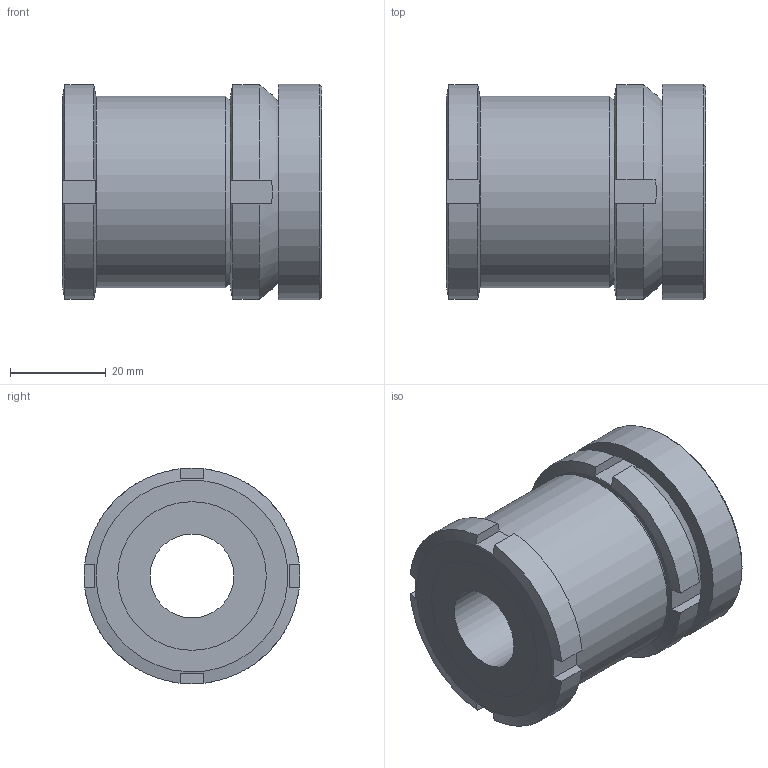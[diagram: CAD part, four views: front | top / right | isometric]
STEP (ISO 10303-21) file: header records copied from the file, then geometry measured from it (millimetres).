
FILE_DESCRIPTION( ( 'STEP AP203' ), '1' );
FILE_NAME( 'C:/Temp/Ganter_Step_05_03_2020/data/3_2/gn350_2/gn_350_2_ni/Stainless Steel-Levelling set GN 350.2-45-17,5-54-NI (0-0).stp', '2020-03-13T05:28:10', ( 'License CC BY-ND 4.0' ), ( 'CADENAS' ), ' ', 'PARTsolutions', ' ' );
FILE_SCHEMA( ( 'CONFIG_CONTROL_DESIGN' ) );
Length unit declared in the file: millimetre
Products named in the file (4): Stainless Steel-Levelling set GN 350.2-45-17,5-54-NI (0-0); _Levelling set GN 350.2-45-17,5-54-ST-G; _Levelling set GN 350.2-45-17,5-54-ST-K; _Levelling set GN 350.2-45-17,5-54-ST-P(0)
Assembly tree (3 placements, depth 2):
  Stainless Steel-Levelling set GN 350.2-45-17,5-54-NI (0-0)
    _Levelling set GN 350.2-45-17,5-54-ST-G
    _Levelling set GN 350.2-45-17,5-54-ST-K
    _Levelling set GN 350.2-45-17,5-54-ST-P(0)
Bounding box: 54 x 45 x 45 mm (x, y, z)
Volume: 60063.7 mm3; surface area: 24368.9 mm2
Topology: 3 solids, 3 shells, 62 faces, 149 edges, 99 vertices
Faces by surface type: plane 36, cylinder 19, cone 5, sphere 2
Full cylindrical faces by diameter (mm): 17.5 x1, 22 x1, 24.492 x1, 25.5 x1, 28.376 x1, 30 x2, 31 x2, 40 x1, 45 x1
Entity records: 1925 total; most frequent: CARTESIAN_POINT 462, DIRECTION 276, ORIENTED_EDGE 248, EDGE_CURVE 124, AXIS2_PLACEMENT_3D 122, EDGE_LOOP 92, VERTEX_POINT 92, FACE_OUTER_BOUND 75
